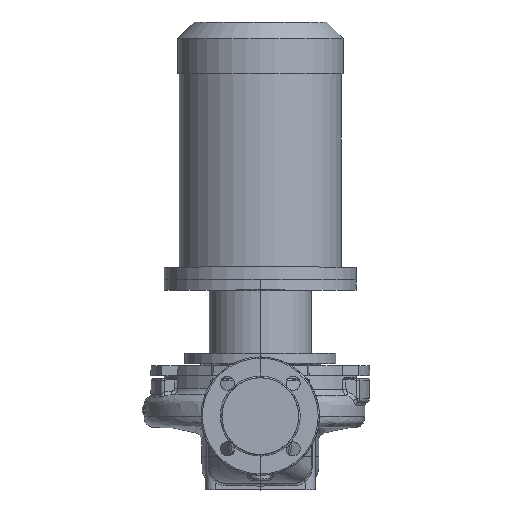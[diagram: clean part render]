
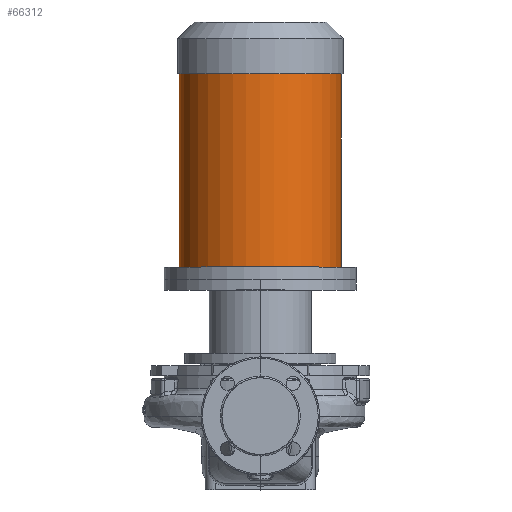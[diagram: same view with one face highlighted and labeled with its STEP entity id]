
A CAD part, top view. The second image highlights one B-rep face of the part: STEP entity #66312.
In plain terms, the highlighted cylindrical face has radius 126.5 mm (diameter 253 mm), a partial arc.
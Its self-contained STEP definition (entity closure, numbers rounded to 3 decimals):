
#4263 = CIRCLE ( 'NONE', #28003, 126.5 ) ;
#8733 = DIRECTION ( 'NONE',  ( 0., -1., 0. ) ) ;
#10110 = CARTESIAN_POINT ( 'NONE',  ( -126.5, 233.3, 0. ) ) ;
#10621 = DIRECTION ( 'NONE',  ( 0., -1., 0. ) ) ;
#10989 = DIRECTION ( 'NONE',  ( -1., 0., 0. ) ) ;
#13052 = CARTESIAN_POINT ( 'NONE',  ( 126.5, 535.3, 0. ) ) ;
#13204 = VECTOR ( 'NONE', #8733, 1000. ) ;
#13250 = EDGE_CURVE ( 'NONE', #38636, #36396, #22422, .T. ) ;
#13610 = DIRECTION ( 'NONE',  ( -1., 0., 0. ) ) ;
#13751 = VERTEX_POINT ( 'NONE', #65091 ) ;
#14083 = FACE_OUTER_BOUND ( 'NONE', #15439, .T. ) ;
#15439 = EDGE_LOOP ( 'NONE', ( #47632, #42520, #18560, #65008 ) ) ;
#18253 = DIRECTION ( 'NONE',  ( -1., 0., 0. ) ) ;
#18560 = ORIENTED_EDGE ( 'NONE', *, *, #45288, .T. ) ;
#18605 = DIRECTION ( 'NONE',  ( 0., -1., 0. ) ) ;
#18961 = CYLINDRICAL_SURFACE ( 'NONE', #64438, 126.5 ) ;
#21376 = AXIS2_PLACEMENT_3D ( 'NONE', #22789, #38924, #18253 ) ;
#22422 = CIRCLE ( 'NONE', #21376, 126.5 ) ;
#22789 = CARTESIAN_POINT ( 'NONE',  ( 0., 535.3, 0. ) ) ;
#27089 = DIRECTION ( 'NONE',  ( 0., -1., 0. ) ) ;
#27831 = LINE ( 'NONE', #66097, #13204 ) ;
#28003 = AXIS2_PLACEMENT_3D ( 'NONE', #49206, #18605, #13610 ) ;
#30560 = VERTEX_POINT ( 'NONE', #10110 ) ;
#30786 = LINE ( 'NONE', #36495, #62355 ) ;
#36396 = VERTEX_POINT ( 'NONE', #39895 ) ;
#36495 = CARTESIAN_POINT ( 'NONE',  ( 126.5, 213.3, 0. ) ) ;
#37758 = CARTESIAN_POINT ( 'NONE',  ( 0., 213.3, 0. ) ) ;
#38636 = VERTEX_POINT ( 'NONE', #13052 ) ;
#38924 = DIRECTION ( 'NONE',  ( 0., -1., 0. ) ) ;
#39895 = CARTESIAN_POINT ( 'NONE',  ( -126.5, 535.3, 0. ) ) ;
#40608 = EDGE_CURVE ( 'NONE', #38636, #13751, #30786, .T. ) ;
#42520 = ORIENTED_EDGE ( 'NONE', *, *, #13250, .T. ) ;
#45288 = EDGE_CURVE ( 'NONE', #36396, #30560, #27831, .T. ) ;
#47632 = ORIENTED_EDGE ( 'NONE', *, *, #40608, .F. ) ;
#49206 = CARTESIAN_POINT ( 'NONE',  ( 0., 233.3, 0. ) ) ;
#62355 = VECTOR ( 'NONE', #10621, 1000. ) ;
#64438 = AXIS2_PLACEMENT_3D ( 'NONE', #37758, #27089, #10989 ) ;
#65008 = ORIENTED_EDGE ( 'NONE', *, *, #67238, .F. ) ;
#65091 = CARTESIAN_POINT ( 'NONE',  ( 126.5, 233.3, 0. ) ) ;
#66097 = CARTESIAN_POINT ( 'NONE',  ( -126.5, 213.3, 0. ) ) ;
#66312 = ADVANCED_FACE ( 'NONE', ( #14083 ), #18961, .T. ) ;
#67238 = EDGE_CURVE ( 'NONE', #13751, #30560, #4263, .T. ) ;
